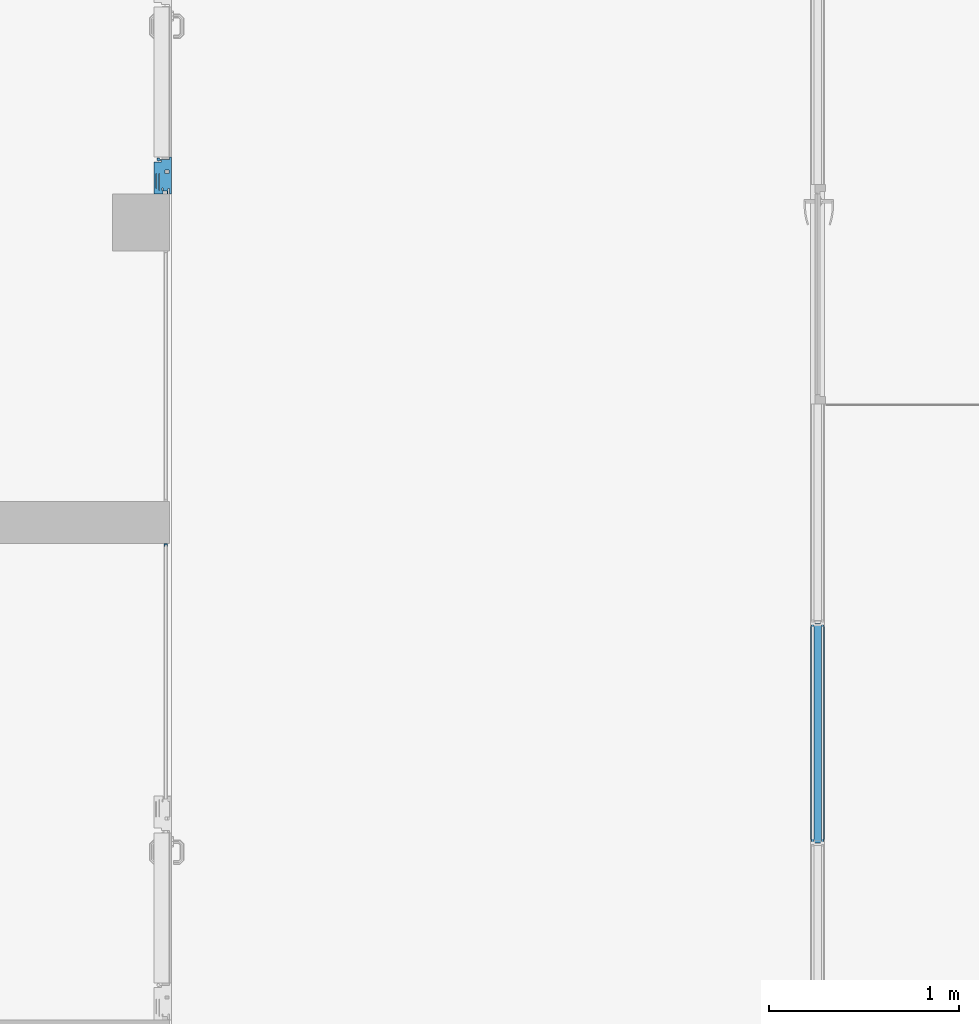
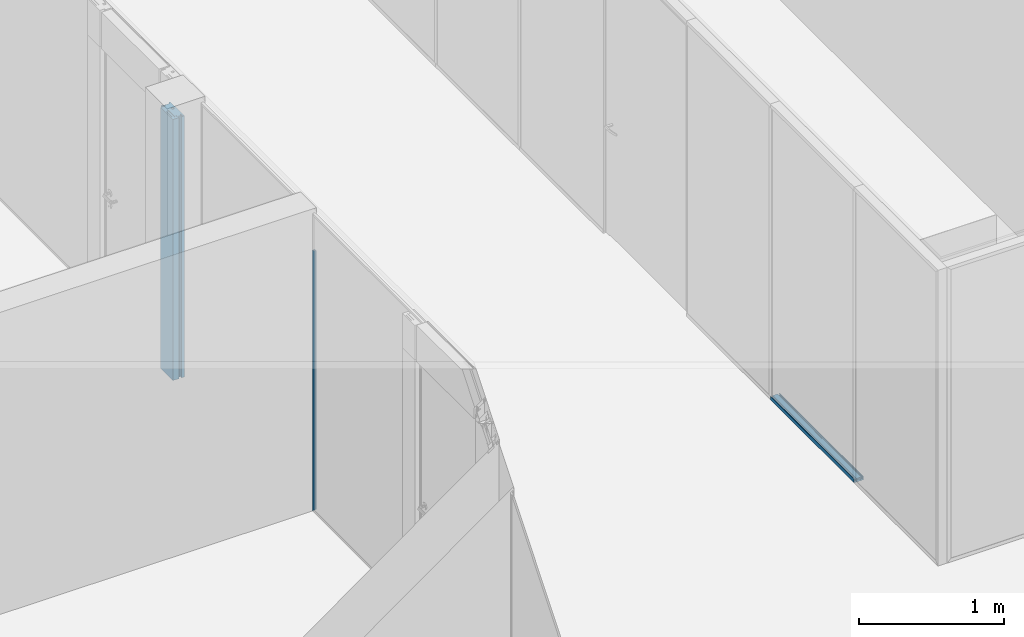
# One storey, part 6 of 79: 3 members, 3 elements without a shape of their own.
"""IFC2X3 building model written with IfcOpenShell, lengths in millimetres."""

from ifc_helpers import new_model, entity, si_unit, converted_unit, derived_unit, money_unit, direction, frame, origin_with_axes, place, context, subcontext, project, spatial, faceted_brep, source, transform, mapped, material, material_list, type_object, element, aggregate, save


model = new_model("IFC2X3")

# Units and contexts
model_context = context("Model", 3, precision=0.01, world=origin_with_axes(), true_north=direction((0.0, 1.0)))
body_context = subcontext(model_context, "Body", "Model", "MODEL_VIEW")
ifc_project = project(units=[si_unit("LENGTHUNIT", "METRE", prefix="MILLI"), si_unit("AREAUNIT", "SQUARE_METRE"), si_unit("VOLUMEUNIT", "CUBIC_METRE"), converted_unit("PLANEANGLEUNIT", "DEGREE", entity("IfcPlaneAngleMeasure", 0.0174532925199), si_unit("PLANEANGLEUNIT", "RADIAN"), dimensions=[0, 0, 0, 0, 0, 0, 0]), si_unit("SOLIDANGLEUNIT", "STERADIAN"), money_unit("EUR"), converted_unit("TIMEUNIT", "Year", entity("IfcTimeMeasure", 31556926.0), si_unit("TIMEUNIT", "SECOND"), dimensions=[0, 0, 1, 0, 0, 0, 0]), si_unit("MASSUNIT", "GRAM", prefix="KILO"), si_unit("THERMODYNAMICTEMPERATUREUNIT", "DEGREE_CELSIUS"), si_unit("LUMINOUSINTENSITYUNIT", "LUMEN"), si_unit("ENERGYUNIT", "JOULE", prefix="MEGA"), derived_unit("THERMALCONDUCTANCEUNIT", [(si_unit("POWERUNIT", "WATT"), 1), (si_unit("LENGTHUNIT", "METRE"), -1), (si_unit("THERMODYNAMICTEMPERATUREUNIT", "KELVIN"), -1)]), derived_unit("SPECIFICHEATCAPACITYUNIT", [(si_unit("ENERGYUNIT", "JOULE"), 1), (si_unit("MASSUNIT", "GRAM", prefix="KILO"), -1), (si_unit("THERMODYNAMICTEMPERATUREUNIT", "KELVIN"), -1)]), derived_unit("MASSDENSITYUNIT", [(si_unit("MASSUNIT", "GRAM", prefix="KILO"), 1), (si_unit("VOLUMEUNIT", "CUBIC_METRE"), -1)])], contexts=[model_context])

# Site, building, storey
site_placement = place(None, origin_with_axes())
site = spatial("IfcSite", under=ifc_project, at=site_placement, Name="L.Koidula tn 11b", CompositionType="ELEMENT")
building_placement = place(site_placement, origin_with_axes())
building = spatial("IfcBuilding", under=site, at=building_placement, Name="Rakvere Riigigümnaasium", CompositionType="ELEMENT")
storey_placement = place(building_placement, frame((0.0, 0.0, 3720.0), z_axis=(0.0, 0.0, 1.0), x_axis=(1.0, 0.0, 0.0)))
storey = spatial("IfcBuildingStorey", under=building, at=storey_placement, Name="2.korrus +3,72", CompositionType="ELEMENT", Elevation=3720.0)

# Curtain wall, member
curtain_wall_type = type_object("IfcCurtainWallType", Name="Curtain Wall Type", PredefinedType="NOTDEFINED")
curtain_wall_1_placement = place(storey_placement, frame((41130.915445, 24920.4555468, 0.0), z_axis=(0.0, 0.0, 1.0), x_axis=(1.0, 0.0, 0.0)))
curtain_wall_1 = element("IfcCurtainWall", 1, at=curtain_wall_1_placement, inside=storey, type_object=curtain_wall_type, Name="SKLF-15")
ifc_material_1 = material(Name="Puit")
ifc_material_2 = material(Name="Klaasvill")
ifc_material_3 = material(Name="MDF")
ifc_material_4 = material(Name="Alumiiniumprofiil")
ifc_material_5 = material(Name="Teras")
ifc_material_list_1 = material_list([ifc_material_1, ifc_material_2, ifc_material_3, ifc_material_4, ifc_material_5])
member_type_1 = type_object("IfcMemberType", Name="Siseklaasfassaad - Ukseraam hing- klaasita-2 195 x 29", PredefinedType="MULLION")
shared_shape_1 = source(origin_with_axes(), body_context, "Body", "Brep", [
    faceted_brep([(139.859682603, -15.116905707, 0.0), (181.717061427, -15.116905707, 0.0), (181.717061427, -15.116905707, 2200.0), (139.859682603, -15.116905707, 2200.0), (139.859682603, 50.9999990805, 0.0), (169.859682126, 50.9999990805, 0.0), (169.859683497, 23.9999989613, 0.0), (178.395629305, 23.9999989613, 0.0), (178.395629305, -8.00000062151, 0.0), (181.855103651, -8.00000062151, 0.0), (181.855103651, -15.116905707, 0.0), (181.855103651, -15.116905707, 2200.0), (181.855103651, -8.00000062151, 2200.0), (178.395629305, -8.00000062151, 2200.0), (178.395629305, 23.9999989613, 2200.0), (169.859683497, 23.9999989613, 2200.0), (169.859682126, 50.9999990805, 2200.0), (139.859682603, 50.9999990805, 2200.0)], [[[0, 1, 2, 3]], [[0, 4, 5, 6, 7, 8, 9, 10, 1]], [[1, 10, 11, 2]], [[3, 2, 11, 12, 13, 14, 15, 16, 17]], [[4, 0, 3, 17]], [[5, 4, 17, 16]], [[6, 5, 16, 15]], [[7, 6, 15, 14]], [[8, 7, 14, 13]], [[9, 8, 13, 12]], [[10, 9, 12, 11]]]),
    faceted_brep([(31.9999999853, 20.4981590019, 0.0), (31.9999999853, 17.3999984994, 0.0), (31.9999999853, 17.3999984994, 2200.0), (31.9999999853, 20.4981590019, 2200.0), (109.856776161, 20.498157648, 0.0), (109.856777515, 5.39999855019, 0.0), (109.856777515, -15.0000008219, 0.0), (109.856777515, -16.9999999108, 0.0), (50.0000012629, -17.0000026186, 0.0), (31.9999999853, -16.9999999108, 0.0), (31.9999999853, -10.9998686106, 0.0), (31.9999999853, -4.99999996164, 0.0), (31.9999999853, -4.99999996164, 2200.0), (31.9999999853, -10.9998686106, 2200.0), (31.9999999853, -16.9999999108, 2200.0), (50.0000012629, -17.0000026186, 2200.0), (109.856777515, -16.9999999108, 2200.0), (109.856777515, -15.0000008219, 2200.0), (109.856777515, 5.39999855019, 2200.0), (109.856776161, 20.498157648, 2200.0)], [[[0, 1, 2, 3]], [[0, 4, 5, 6, 7, 8, 9, 10, 11, 1]], [[1, 11, 12, 2]], [[3, 2, 12, 13, 14, 15, 16, 17, 18, 19]], [[4, 0, 3, 19]], [[5, 4, 19, 18]], [[6, 5, 18, 17]], [[7, 6, 17, 16]], [[8, 7, 16, 15]], [[9, 8, 15, 14]], [[10, 9, 14, 13]], [[11, 10, 13, 12]]]),
    faceted_brep([(2.00000016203, -18.9999768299, 0.0), (2.00000016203, -28.9999775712, 0.0), (2.00000016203, -28.9999775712, 2200.0), (2.00000016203, -18.9999768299, 2200.0), (29.9999993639, -18.9999998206, 0.0), (31.9999995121, -18.9999998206, 0.0), (50.0000008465, -18.9999998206, 0.0), (109.856776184, -18.9999797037, 0.0), (192.859682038, -18.9999768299, 0.0), (192.859682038, -28.9999775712, 0.0), (192.859682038, -28.9999775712, 2200.0), (192.859682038, -18.9999768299, 2200.0), (109.856776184, -18.9999797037, 2200.0), (50.0000008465, -18.9999998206, 2200.0), (31.9999995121, -18.9999998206, 2200.0), (29.9999993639, -18.9999998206, 2200.0)], [[[0, 1, 2, 3]], [[0, 4, 5, 6, 7, 8, 9, 1]], [[1, 9, 10, 2]], [[3, 2, 10, 11, 12, 13, 14, 15]], [[4, 0, 3, 15]], [[5, 4, 15, 14]], [[6, 5, 14, 13]], [[7, 6, 13, 12]], [[8, 7, 12, 11]], [[9, 8, 11, 10]]]),
    faceted_brep([(167.859682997, 63.0000007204, 0.0), (1.99999972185, 62.9999978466, 0.0), (1.99999972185, 62.9999978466, 2200.0), (167.859682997, 63.0000007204, 2200.0), (167.859682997, 52.9999999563, 0.0), (139.859683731, 52.9999999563, 0.0), (109.85677599, 52.9999999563, 0.0), (29.9999989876, 52.9999970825, 0.0), (18.6712801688, 52.9999970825, 0.0), (1.99999972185, 52.9999999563, 0.0), (1.99999972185, 52.9999999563, 2200.0), (18.6712801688, 52.9999970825, 2200.0), (29.9999989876, 52.9999970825, 2200.0), (109.85677599, 52.9999999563, 2200.0), (139.859683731, 52.9999999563, 2200.0), (167.859682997, 52.9999999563, 2200.0)], [[[0, 1, 2, 3]], [[0, 4, 5, 6, 7, 8, 9, 1]], [[1, 9, 10, 2]], [[3, 2, 10, 11, 12, 13, 14, 15]], [[4, 0, 3, 15]], [[5, 4, 15, 14]], [[6, 5, 14, 13]], [[7, 6, 13, 12]], [[8, 7, 12, 11]], [[9, 8, 11, 10]]]),
    faceted_brep([(18.9999998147, 33.492630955, 0.0), (18.9999998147, 20.5001075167, 0.0), (18.9999998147, 20.5001075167, 2200.0), (18.9999998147, 33.492630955, 2200.0), (109.856776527, 33.4906812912, 0.0), (109.856776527, 20.4981578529, 0.0), (31.9999999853, 20.4981590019, 0.0), (31.9999999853, 20.4981590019, 2200.0), (109.856776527, 20.4981578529, 2200.0), (109.856776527, 33.4906812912, 2200.0)], [[[0, 1, 2, 3]], [[0, 4, 5, 6, 1]], [[1, 6, 7, 2]], [[3, 2, 7, 8, 9]], [[4, 0, 3, 9]], [[5, 4, 9, 8]], [[6, 5, 8, 7]]]),
    faceted_brep([(109.854989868, 49.9999988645, 0.0), (19.0000000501, 50.0001085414, 0.0), (19.0000000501, 50.0001085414, 2200.0), (109.854989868, 49.9999988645, 2200.0), (109.854989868, 36.9999990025, 0.0), (19.0000000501, 37.0001070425, 0.0), (19.0000000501, 37.0001070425, 2200.0), (109.854989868, 36.9999990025, 2200.0)], [[[0, 1, 2, 3]], [[0, 4, 5, 1]], [[1, 5, 6, 2]], [[3, 2, 6, 7]], [[4, 0, 3, 7]], [[5, 4, 7, 6]]]),
    faceted_brep([(109.856776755, 52.9999991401, 0.0), (109.854989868, 49.9999988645, 0.0), (109.854989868, 49.9999988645, 2200.0), (109.856776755, 52.9999991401, 2200.0), (139.859682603, 52.9999991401, 0.0), (167.859682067, 52.9999991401, 0.0), (167.859682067, 62.9999994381, 0.0), (169.859682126, 62.9999994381, 0.0), (169.859682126, 54.9999991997, 0.0), (169.859682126, 50.9999990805, 0.0), (139.859682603, 50.9999990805, 0.0), (139.859682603, -15.116905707, 0.0), (181.717061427, -15.116905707, 0.0), (181.717061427, -17.0000002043, 0.0), (194.859682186, -17.0000002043, 0.0), (194.859682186, -20.0740464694, 0.0), (194.859682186, -29.0000005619, 0.0), (192.859683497, -29.0000005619, 0.0), (192.859683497, -18.9999783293, 0.0), (109.856776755, -18.9999783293, 0.0), (109.856777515, -16.9999999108, 0.0), (109.856776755, -15.0000001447, 0.0), (126.859682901, -15.0000001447, 0.0), (126.859682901, 5.39999991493, 0.0), (109.856776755, 5.39999991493, 0.0), (109.856776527, 20.4981578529, 0.0), (109.856776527, 33.4906812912, 0.0), (109.854989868, 36.9999990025, 0.0), (109.854989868, 36.9999990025, 2200.0), (109.856776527, 33.4906812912, 2200.0), (109.856776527, 20.4981578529, 2200.0), (109.856776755, 5.39999991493, 2200.0), (126.859682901, 5.39999991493, 2200.0), (126.859682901, -15.0000001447, 2200.0), (109.856776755, -15.0000001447, 2200.0), (109.856777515, -16.9999999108, 2200.0), (109.856776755, -18.9999783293, 2200.0), (192.859683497, -18.9999783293, 2200.0), (192.859683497, -29.0000005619, 2200.0), (194.859682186, -29.0000005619, 2200.0), (194.859682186, -20.0740464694, 2200.0), (194.859682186, -17.0000002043, 2200.0), (181.717061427, -17.0000002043, 2200.0), (181.717061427, -15.116905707, 2200.0), (139.859682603, -15.116905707, 2200.0), (139.859682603, 50.9999990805, 2200.0), (169.859682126, 50.9999990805, 2200.0), (169.859682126, 54.9999991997, 2200.0), (169.859682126, 62.9999994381, 2200.0), (167.859682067, 62.9999994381, 2200.0), (167.859682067, 52.9999991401, 2200.0), (139.859682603, 52.9999991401, 2200.0)], [[[0, 1, 2, 3]], [[0, 4, 5, 6, 7, 8, 9, 10, 11, 12, 13, 14, 15, 16, 17, 18, 19, 20, 21, 22, 23, 24, 25, 26, 27, 1]], [[1, 27, 28, 2]], [[3, 2, 28, 29, 30, 31, 32, 33, 34, 35, 36, 37, 38, 39, 40, 41, 42, 43, 44, 45, 46, 47, 48, 49, 50, 51]], [[4, 0, 3, 51]], [[5, 4, 51, 50]], [[6, 5, 50, 49]], [[7, 6, 49, 48]], [[8, 7, 48, 47]], [[9, 8, 47, 46]], [[10, 9, 46, 45]], [[11, 10, 45, 44]], [[12, 11, 44, 43]], [[13, 12, 43, 42]], [[14, 13, 42, 41]], [[15, 14, 41, 40]], [[16, 15, 40, 39]], [[17, 16, 39, 38]], [[18, 17, 38, 37]], [[19, 18, 37, 36]], [[20, 19, 36, 35]], [[21, 20, 35, 34]], [[22, 21, 34, 33]], [[23, 22, 33, 32]], [[24, 23, 32, 31]], [[25, 24, 31, 30]], [[26, 25, 30, 29]], [[27, 26, 29, 28]]]),
    faceted_brep([(0.0, 62.9999994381, 0.0), (0.0, 15.3999992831, 0.0), (0.0, 15.3999992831, 2200.0), (0.0, 62.9999994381, 2200.0), (1.99999958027, 62.9999994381, 0.0), (2.00000095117, 52.999998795, 0.0), (18.6712817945, 52.999998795, 0.0), (29.9999991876, 52.999998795, 0.0), (29.9999991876, 50.0001084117, 0.0), (19.0000008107, 50.0001084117, 0.0), (19.0000000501, 37.0001070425, 0.0), (18.9999998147, 33.492630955, 0.0), (18.9999998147, 20.5001075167, 0.0), (19.0000008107, 17.3999988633, 0.0), (32.0000001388, 17.3999988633, 0.0), (32.0000001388, -5.0, 0.0), (32.0000001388, -10.9998685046, 0.0), (32.0000001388, -17.0000015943, 0.0), (50.0000004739, -17.0000015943, 0.0), (50.0000004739, -18.9999998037, 0.0), (32.0000001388, -18.9999998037, 0.0), (30.0000005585, -18.9999998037, 0.0), (30.0000005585, -17.0000015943, 0.0), (30.0000005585, -10.9998685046, 0.0), (2.00000095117, -10.9998685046, 0.0), (2.00000016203, -18.9999768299, 0.0), (2.00000095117, -28.9999785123, 0.0), (0.0, -28.9999785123, 0.0), (0.0, -5.0, 0.0), (2.00000095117, -5.0, 0.0), (16.9999998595, -5.0, 0.0), (16.9999998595, 15.3999992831, 0.0), (16.9999998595, 15.3999992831, 2200.0), (16.9999998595, -5.0, 2200.0), (2.00000095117, -5.0, 2200.0), (0.0, -5.0, 2200.0), (0.0, -28.9999785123, 2200.0), (2.00000095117, -28.9999785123, 2200.0), (2.00000016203, -18.9999768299, 2200.0), (2.00000095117, -10.9998685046, 2200.0), (30.0000005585, -10.9998685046, 2200.0), (30.0000005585, -17.0000015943, 2200.0), (30.0000005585, -18.9999998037, 2200.0), (32.0000001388, -18.9999998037, 2200.0), (50.0000004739, -18.9999998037, 2200.0), (50.0000004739, -17.0000015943, 2200.0), (32.0000001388, -17.0000015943, 2200.0), (32.0000001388, -10.9998685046, 2200.0), (32.0000001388, -5.0, 2200.0), (32.0000001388, 17.3999988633, 2200.0), (19.0000008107, 17.3999988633, 2200.0), (18.9999998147, 20.5001075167, 2200.0), (18.9999998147, 33.492630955, 2200.0), (19.0000000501, 37.0001070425, 2200.0), (19.0000008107, 50.0001084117, 2200.0), (29.9999991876, 50.0001084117, 2200.0), (29.9999991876, 52.999998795, 2200.0), (18.6712817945, 52.999998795, 2200.0), (2.00000095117, 52.999998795, 2200.0), (1.99999958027, 62.9999994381, 2200.0)], [[[0, 1, 2, 3]], [[0, 4, 5, 6, 7, 8, 9, 10, 11, 12, 13, 14, 15, 16, 17, 18, 19, 20, 21, 22, 23, 24, 25, 26, 27, 28, 29, 30, 31, 1]], [[1, 31, 32, 2]], [[3, 2, 32, 33, 34, 35, 36, 37, 38, 39, 40, 41, 42, 43, 44, 45, 46, 47, 48, 49, 50, 51, 52, 53, 54, 55, 56, 57, 58, 59]], [[4, 0, 3, 59]], [[5, 4, 59, 58]], [[6, 5, 58, 57]], [[7, 6, 57, 56]], [[8, 7, 56, 55]], [[9, 8, 55, 54]], [[10, 9, 54, 53]], [[11, 10, 53, 52]], [[12, 11, 52, 51]], [[13, 12, 51, 50]], [[14, 13, 50, 49]], [[15, 14, 49, 48]], [[16, 15, 48, 47]], [[17, 16, 47, 46]], [[18, 17, 46, 45]], [[19, 18, 45, 44]], [[20, 19, 44, 43]], [[21, 20, 43, 42]], [[22, 21, 42, 41]], [[23, 22, 41, 40]], [[24, 23, 40, 39]], [[25, 24, 39, 38]], [[26, 25, 38, 37]], [[27, 26, 37, 36]], [[28, 27, 36, 35]], [[29, 28, 35, 34]], [[30, 29, 34, 33]], [[31, 30, 33, 32]]]),
    faceted_brep([(191.287294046, 42.0314837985, 0.0), (189.304437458, 46.4929115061, 0.0), (189.304437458, 46.4929115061, 2200.0), (191.287294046, 42.0314837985, 2200.0), (191.287294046, 39.5529134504, 0.0), (190.543723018, 37.0712444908, 0.0), (188.808723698, 35.0883879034, 0.0), (186.82586711, 33.6012450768, 0.0), (184.34729599, 32.8576740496, 0.0), (181.86562703, 33.1055313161, 0.0), (181.658588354, 33.5817206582, 0.0), (181.86562703, 32.1141030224, 0.0), (181.855103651, -8.00000062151, 0.0), (178.395628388, -8.00000056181, 0.0), (178.395629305, 23.9999989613, 0.0), (178.395628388, 31.1195761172, 0.0), (178.147771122, 33.1055313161, 0.0), (177.404200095, 34.840530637, 0.0), (176.164914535, 37.3221995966, 0.0), (175.421343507, 39.7976721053, 0.0), (175.421343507, 42.279341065, 0.0), (176.164914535, 44.7579114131, 0.0), (177.652057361, 46.7407680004, 0.0), (179.882770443, 48.227910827, 0.0), (182.364439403, 48.9714818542, 0.0), (184.843010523, 48.9714818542, 0.0), (187.073723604, 47.9800535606, 0.0), (187.073723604, 47.9800535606, 2200.0), (184.843010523, 48.9714818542, 2200.0), (182.364439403, 48.9714818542, 2200.0), (179.882770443, 48.227910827, 2200.0), (177.652057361, 46.7407680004, 2200.0), (176.164914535, 44.7579114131, 2200.0), (175.421343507, 42.279341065, 2200.0), (175.421343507, 39.7976721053, 2200.0), (176.164914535, 37.3221995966, 2200.0), (177.404200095, 34.840530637, 2200.0), (178.147771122, 33.1055313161, 2200.0), (178.395628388, 31.1195761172, 2200.0), (178.395629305, 23.9999989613, 2200.0), (178.395628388, -8.00000056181, 2200.0), (181.855103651, -8.00000062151, 2200.0), (181.86562703, 32.1141030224, 2200.0), (181.658588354, 33.5817206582, 2200.0), (181.86562703, 33.1055313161, 2200.0), (184.34729599, 32.8576740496, 2200.0), (186.82586711, 33.6012450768, 2200.0), (188.808723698, 35.0883879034, 2200.0), (190.543723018, 37.0712444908, 2200.0), (191.287294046, 39.5529134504, 2200.0)], [[[0, 1, 2, 3]], [[0, 4, 5, 6, 7, 8, 9, 10, 11, 12, 13, 14, 15, 16, 17, 18, 19, 20, 21, 22, 23, 24, 25, 26, 1]], [[1, 26, 27, 2]], [[3, 2, 27, 28, 29, 30, 31, 32, 33, 34, 35, 36, 37, 38, 39, 40, 41, 42, 43, 44, 45, 46, 47, 48, 49]], [[4, 0, 3, 49]], [[5, 4, 49, 48]], [[6, 5, 48, 47]], [[7, 6, 47, 46]], [[8, 7, 46, 45]], [[9, 8, 45, 44]], [[10, 9, 44, 43]], [[11, 10, 43, 42]], [[12, 11, 42, 41]], [[13, 12, 41, 40]], [[14, 13, 40, 39]], [[15, 14, 39, 38]], [[16, 15, 38, 37]], [[17, 16, 37, 36]], [[18, 17, 36, 35]], [[19, 18, 35, 34]], [[20, 19, 34, 33]], [[21, 20, 33, 32]], [[22, 21, 32, 31]], [[23, 22, 31, 30]], [[24, 23, 30, 29]], [[25, 24, 29, 28]], [[26, 25, 28, 27]]]),
])
member_1_placement = place(curtain_wall_1_placement, frame((-0.021911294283, -519.999999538, 0.0), z_axis=(0.0, 0.0, 1.0), x_axis=(-4.21371043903e-05, -0.999999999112, 0.0)))
member_1 = element("IfcMember", 2, at=member_1_placement, type_object=member_type_1, material=ifc_material_list_1, Name="Frame-Siseklaasf-001", ObjectType="MULLION", context=body_context, shape_type="MappedRepresentation", body=[
    mapped(shared_shape_1, transform((0.0, 0.0, 0.0), x_axis=(-1.0, 0.0, 0.0), y_axis=(0.0, -1.0, 0.0), z_axis=(0.0, 0.0, 1.0))),
])
aggregate(curtain_wall_1, [member_1])

curtain_wall_2_placement = place(storey_placement, frame((41130.9157939, 20570.4555219, 2.41342252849e-05), z_axis=(0.0, 0.0, 1.0), x_axis=(1.0, 0.0, 0.0)))
curtain_wall_2 = element("IfcCurtainWall", 3, at=curtain_wall_2_placement, inside=storey, type_object=curtain_wall_type, Name="SKLF-13")
ifc_material_list_2 = material_list([ifc_material_2, ifc_material_4])
member_type_2 = type_object("IfcMemberType", Name="Boundary Frame 17 x 1", PredefinedType="MULLION")
shared_shape_2 = source(origin_with_axes(), body_context, "Body", "Brep", [
    faceted_brep([(-8.35001937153, -5.0, 8.35001937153), (-2.00001937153, -5.0, 2.00001937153), (-2.00001937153, -5.0, 2200.0), (-8.35001937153, -5.0, 2200.0), (-8.35001937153, 9.01614452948, 8.35001937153), (-2.00001937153, 9.01614452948, 2.00001937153), (-2.00001937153, 9.01614452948, 2200.0), (-8.35001937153, 9.01614452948, 2200.0)], [[[0, 1, 2, 3]], [[1, 0, 4, 5]], [[1, 5, 6, 2]], [[2, 6, 7, 3]], [[4, 0, 3, 7]], [[5, 4, 7, 6]]]),
    faceted_brep([(-12.004489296, 7.03075035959, 12.004489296), (-11.987414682, 9.01614444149, 11.987414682), (-11.987414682, 9.01614444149, 2200.0), (-12.004489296, 7.03075035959, 2200.0), (-12.742237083, 6.29300257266, 12.742237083), (-13.7500193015, 6.02296814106, 13.7500193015), (-14.75780152, 6.29300257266, 14.75780152), (-15.4955493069, 7.03075035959, 15.4955493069), (-15.7655837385, 8.03853257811, 15.7655837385), (-15.5126239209, 9.01614444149, 15.5126239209), (-15.5126239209, 9.01614444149, 2200.0), (-15.7655837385, 8.03853257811, 2200.0), (-15.4955493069, 7.03075035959, 2200.0), (-14.75780152, 6.29300257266, 2200.0), (-13.7500193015, 6.02296814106, 2200.0), (-12.742237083, 6.29300257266, 2200.0)], [[[0, 1, 2, 3]], [[1, 0, 4, 5, 6, 7, 8, 9]], [[1, 9, 10, 2]], [[2, 10, 11, 12, 13, 14, 15, 3]], [[4, 0, 3, 15]], [[5, 4, 15, 14]], [[6, 5, 14, 13]], [[7, 6, 13, 12]], [[8, 7, 12, 11]], [[9, 8, 11, 10]]]),
    faceted_brep([(-17.0000193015, -8.0, 17.0000193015), (0.0, -8.0, 0.0), (0.0, -8.0, 2200.0), (-17.0000193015, -8.0, 2200.0), (-17.0000193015, -5.0, 17.0000193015), (-8.35001937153, -5.0, 8.35001937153), (-2.00001930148, -5.0, 2.00001930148), (-2.00001930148, 9.01614444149, 2.00001930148), (-8.35001937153, 9.01614452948, 8.35001937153), (-11.987414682, 9.01614444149, 11.987414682), (-15.5126239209, 9.01614444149, 15.5126239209), (-17.0000193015, 9.01614444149, 17.0000193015), (-17.0000193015, 12.0, 17.0000193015), (0.0, 12.0, 0.0), (0.0, 12.0, 2200.0), (-17.0000193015, 12.0, 2200.0), (-17.0000193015, 9.01614444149, 2200.0), (-15.5126239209, 9.01614444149, 2200.0), (-11.987414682, 9.01614444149, 2200.0), (-8.35001937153, 9.01614452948, 2200.0), (-2.00001930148, 9.01614444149, 2200.0), (-2.00001930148, -5.0, 2200.0), (-8.35001937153, -5.0, 2200.0), (-17.0000193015, -5.0, 2200.0)], [[[0, 1, 2, 3]], [[1, 0, 4, 5, 6, 7, 8, 9, 10, 11, 12, 13]], [[1, 13, 14, 2]], [[2, 14, 15, 16, 17, 18, 19, 20, 21, 22, 23, 3]], [[4, 0, 3, 23]], [[5, 4, 23, 22]], [[6, 5, 22, 21]], [[7, 6, 21, 20]], [[8, 7, 20, 19]], [[9, 8, 19, 18]], [[10, 9, 18, 17]], [[11, 10, 17, 16]], [[12, 11, 16, 15]], [[13, 12, 15, 14]]]),
])
member_2_placement = place(curtain_wall_2_placement, frame((0.0851877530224, 1990.00000339, -2.41342252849e-05), z_axis=(0.0, 0.0, 1.0), x_axis=(-4.28079159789e-05, -0.999999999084, 0.0)))
member_2 = element("IfcMember", 4, at=member_2_placement, type_object=member_type_2, material=ifc_material_list_2, Name="PV-SKLF-19-raam", ObjectType="MULLION", context=body_context, shape_type="MappedRepresentation", body=[
    mapped(shared_shape_2, transform((0.0, 0.0, 0.0), x_axis=(-1.0, 0.0, 0.0), y_axis=(0.0, -1.0, 0.0), z_axis=(0.0, 0.0, 1.0))),
])
aggregate(curtain_wall_2, [member_2])

curtain_wall_3_placement = place(storey_placement, frame((44568.0000786, 20404.7190306, -3.55964617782e-05), z_axis=(0.0, 0.0, 1.0), x_axis=(1.0, 0.0, 0.0)))
curtain_wall_3 = element("IfcCurtainWall", 5, at=curtain_wall_3_placement, inside=storey, type_object=curtain_wall_type, Name="SKLF-17")
ifc_material_6 = material(Name="Teras RAL7012")
ifc_material_list_3 = material_list([ifc_material_2, ifc_material_6])
member_type_3 = type_object("IfcMemberType", Name="Boundary Frame 30 x 42", PredefinedType="MULLION")
shared_shape_3 = source(origin_with_axes(), body_context, "Body", "Brep", [
    faceted_brep([(7.49999990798, 15.000000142, 0.0), (13.8499999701, 15.000000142, 0.0), (13.8499999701, 15.000000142, 1156.0), (7.49999990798, 15.000000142, 1156.0), (7.49999990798, 29.0161444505, 0.0), (13.8499999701, 29.0161444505, 0.0), (13.8499999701, 29.0161444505, 1156.0), (7.49999990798, 29.0161444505, 1156.0)], [[[0, 1, 2, 3]], [[0, 4, 5, 1]], [[1, 5, 6, 2]], [[3, 2, 6, 7]], [[4, 0, 3, 7]], [[5, 4, 7, 6]]]),
    faceted_brep([(24.987414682, 29.0161444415, 0.0), (25.004489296, 27.0307503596, 0.0), (25.004489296, 27.0307503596, 1156.0), (24.987414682, 29.0161444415, 1156.0), (28.5126239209, 29.0161444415, 0.0), (28.7655837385, 28.0385325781, 0.0), (28.4955493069, 27.0307503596, 0.0), (27.75780152, 26.2930025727, 0.0), (26.7500193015, 26.0229681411, 0.0), (25.742237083, 26.2930025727, 0.0), (25.742237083, 26.2930025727, 1156.0), (26.7500193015, 26.0229681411, 1156.0), (27.75780152, 26.2930025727, 1156.0), (28.4955493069, 27.0307503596, 1156.0), (28.7655837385, 28.0385325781, 1156.0), (28.5126239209, 29.0161444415, 1156.0)], [[[0, 1, 2, 3]], [[0, 4, 5, 6, 7, 8, 9, 1]], [[1, 9, 10, 2]], [[3, 2, 10, 11, 12, 13, 14, 15]], [[4, 0, 3, 15]], [[5, 4, 15, 14]], [[6, 5, 14, 13]], [[7, 6, 13, 12]], [[8, 7, 12, 11]], [[9, 8, 11, 10]]]),
    faceted_brep([(7.49999990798, -24.9999997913, 0.0), (7.49999990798, -39.0161445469, 0.0), (7.49999990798, -39.0161445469, 1156.0), (7.49999990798, -24.9999997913, 1156.0), (13.8499999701, -24.9999997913, 0.0), (13.8499999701, -39.0161445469, 0.0), (13.8499999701, -39.0161445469, 1156.0), (13.8499999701, -24.9999997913, 1156.0)], [[[0, 1, 2, 3]], [[0, 4, 5, 1]], [[1, 5, 6, 2]], [[3, 2, 6, 7]], [[4, 0, 3, 7]], [[5, 4, 7, 6]]]),
    faceted_brep([(25.004489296, -37.0307503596, 0.0), (24.987414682, -39.0161444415, 0.0), (24.987414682, -39.0161444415, 1156.0), (25.004489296, -37.0307503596, 1156.0), (25.742237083, -36.2930025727, 0.0), (26.7500193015, -36.0229681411, 0.0), (27.75780152, -36.2930025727, 0.0), (28.4955493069, -37.0307503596, 0.0), (28.7655837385, -38.0385325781, 0.0), (28.5126239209, -39.0161444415, 0.0), (28.5126239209, -39.0161444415, 1156.0), (28.7655837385, -38.0385325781, 1156.0), (28.4955493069, -37.0307503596, 1156.0), (27.75780152, -36.2930025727, 1156.0), (26.7500193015, -36.0229681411, 1156.0), (25.742237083, -36.2930025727, 1156.0)], [[[0, 1, 2, 3]], [[0, 4, 5, 6, 7, 8, 9, 1]], [[1, 9, 10, 2]], [[3, 2, 10, 11, 12, 13, 14, 15]], [[4, 0, 3, 15]], [[5, 4, 15, 14]], [[6, 5, 14, 13]], [[7, 6, 13, 12]], [[8, 7, 12, 11]], [[9, 8, 11, 10]]]),
    faceted_brep([(0.0, -22.0000000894, 0.0), (29.5999996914, -22.0000000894, 0.0), (29.5999996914, -22.0000000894, 1156.0), (0.0, -22.0000000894, 1156.0), (0.0, 12.0000000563, 0.0), (29.5999996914, 12.0000000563, 0.0), (1.9999999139, 10.0000001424, 0.0), (1.9999999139, -20.0000001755, 0.0), (18.7999996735, -20.0000001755, 0.0), (18.7999996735, 10.0000001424, 0.0), (29.5999996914, 12.0000000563, 1156.0), (0.0, 12.0000000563, 1156.0), (1.9999999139, 10.0000001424, 1156.0), (18.7999996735, 10.0000001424, 1156.0), (18.7999996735, -20.0000001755, 1156.0), (1.9999999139, -20.0000001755, 1156.0)], [[[0, 1, 2, 3]], [[0, 4, 5, 1], [6, 7, 8, 9]], [[1, 5, 10, 2]], [[3, 2, 10, 11], [12, 13, 14, 15]], [[4, 0, 3, 11]], [[5, 4, 11, 10]], [[7, 6, 12, 15]], [[8, 7, 15, 14]], [[9, 8, 14, 13]], [[6, 9, 13, 12]]]),
    faceted_brep([(0.0, 12.0, 0.0), (29.5999996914, 12.0000000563, 0.0), (29.5999996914, 12.0000000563, 1156.0), (0.0, 12.0, 1156.0), (0.0, 32.0, 0.0), (30.0000193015, 32.0, 0.0), (30.0000193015, 29.0161444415, 0.0), (28.5126239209, 29.0161444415, 0.0), (24.987414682, 29.0161444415, 0.0), (13.8499999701, 29.0161444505, 0.0), (7.49999999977, 29.0161444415, 0.0), (7.49999999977, 15.0, 0.0), (13.8499999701, 15.000000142, 0.0), (30.0000193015, 15.0, 0.0), (30.0000193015, 12.0, 0.0), (30.0000193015, 12.0, 1156.0), (30.0000193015, 15.0, 1156.0), (13.8499999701, 15.000000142, 1156.0), (7.49999999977, 15.0, 1156.0), (7.49999999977, 29.0161444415, 1156.0), (13.8499999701, 29.0161444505, 1156.0), (24.987414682, 29.0161444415, 1156.0), (28.5126239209, 29.0161444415, 1156.0), (30.0000193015, 29.0161444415, 1156.0), (30.0000193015, 32.0, 1156.0), (0.0, 32.0, 1156.0)], [[[0, 1, 2, 3]], [[0, 4, 5, 6, 7, 8, 9, 10, 11, 12, 13, 14, 1]], [[1, 14, 15, 2]], [[3, 2, 15, 16, 17, 18, 19, 20, 21, 22, 23, 24, 25]], [[4, 0, 3, 25]], [[5, 4, 25, 24]], [[6, 5, 24, 23]], [[7, 6, 23, 22]], [[8, 7, 22, 21]], [[9, 8, 21, 20]], [[10, 9, 20, 19]], [[11, 10, 19, 18]], [[12, 11, 18, 17]], [[13, 12, 17, 16]], [[14, 13, 16, 15]]]),
    faceted_brep([(0.0, -22.0, 0.0), (0.0, -42.0, 0.0), (0.0, -42.0, 1156.0), (0.0, -22.0, 1156.0), (29.5999996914, -22.0000000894, 0.0), (30.0000193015, -22.0, 0.0), (30.0000193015, -25.0, 0.0), (13.8499999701, -24.9999997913, 0.0), (7.49999999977, -25.0, 0.0), (7.49999999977, -39.0161444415, 0.0), (13.8499999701, -39.0161445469, 0.0), (24.987414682, -39.0161444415, 0.0), (28.5126239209, -39.0161444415, 0.0), (30.0000193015, -39.0161444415, 0.0), (30.0000193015, -42.0, 0.0), (30.0000193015, -42.0, 1156.0), (30.0000193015, -39.0161444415, 1156.0), (28.5126239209, -39.0161444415, 1156.0), (24.987414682, -39.0161444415, 1156.0), (13.8499999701, -39.0161445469, 1156.0), (7.49999999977, -39.0161444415, 1156.0), (7.49999999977, -25.0, 1156.0), (13.8499999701, -24.9999997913, 1156.0), (30.0000193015, -25.0, 1156.0), (30.0000193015, -22.0, 1156.0), (29.5999996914, -22.0000000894, 1156.0)], [[[0, 1, 2, 3]], [[0, 4, 5, 6, 7, 8, 9, 10, 11, 12, 13, 14, 1]], [[1, 14, 15, 2]], [[3, 2, 15, 16, 17, 18, 19, 20, 21, 22, 23, 24, 25]], [[4, 0, 3, 25]], [[5, 4, 25, 24]], [[6, 5, 24, 23]], [[7, 6, 23, 22]], [[8, 7, 22, 21]], [[9, 8, 21, 20]], [[10, 9, 20, 19]], [[11, 10, 19, 18]], [[12, 11, 18, 17]], [[13, 12, 17, 16]], [[14, 13, 16, 15]]]),
])
member_3_placement = place(curtain_wall_3_placement, frame((0.0, 578.5, 0.0), z_axis=(0.0, 1.0, 0.0), x_axis=(0.0, 0.0, 1.0)))
member_3 = element("IfcMember", 6, at=member_3_placement, type_object=member_type_3, material=ifc_material_list_3, Name="SKLF-68-raam", ObjectType="MULLION", context=body_context, shape_type="MappedRepresentation", body=[
    mapped(shared_shape_3, transform((0.0, 0.0, 0.0))),
])
aggregate(curtain_wall_3, [member_3])

save(model, "model.ifc")
